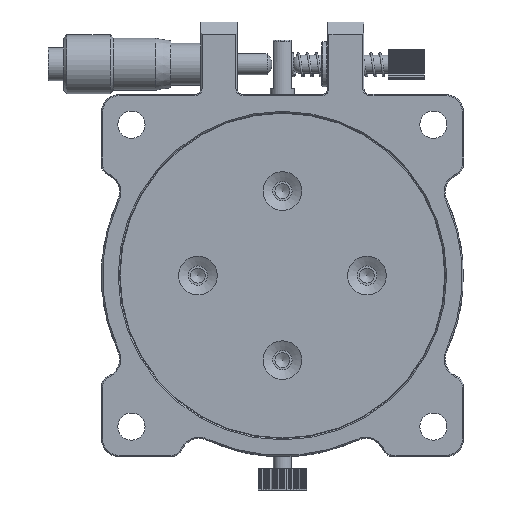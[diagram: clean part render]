
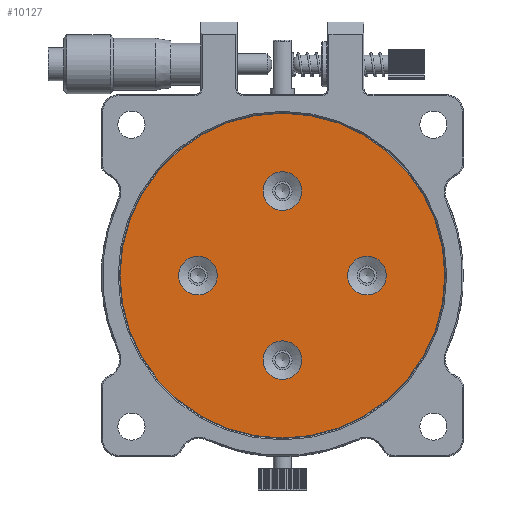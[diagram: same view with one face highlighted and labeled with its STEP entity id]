
A CAD part, front view. The second image highlights one B-rep face of the part: STEP entity #10127.
In plain terms, the highlighted planar face has unit normal (0, -1, 0).
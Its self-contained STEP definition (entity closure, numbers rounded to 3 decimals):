
#161=FACE_BOUND('',#1361,.T.);
#162=FACE_BOUND('',#1362,.T.);
#163=FACE_BOUND('',#1363,.T.);
#164=FACE_BOUND('',#1364,.T.);
#218=PLANE('',#10984);
#750=FACE_OUTER_BOUND('',#1360,.T.);
#1360=EDGE_LOOP('',(#7151));
#1361=EDGE_LOOP('',(#7152));
#1362=EDGE_LOOP('',(#7153));
#1363=EDGE_LOOP('',(#7154));
#1364=EDGE_LOOP('',(#7155));
#3968=CIRCLE('',#10962,3.2);
#3971=CIRCLE('',#10967,3.2);
#3974=CIRCLE('',#10972,3.2);
#3977=CIRCLE('',#10977,3.2);
#3980=CIRCLE('',#10982,26.9);
#4483=VERTEX_POINT('',#15364);
#4486=VERTEX_POINT('',#15374);
#4489=VERTEX_POINT('',#15384);
#4492=VERTEX_POINT('',#15394);
#4495=VERTEX_POINT('',#15404);
#5497=EDGE_CURVE('',#4483,#4483,#3968,.T.);
#5502=EDGE_CURVE('',#4486,#4486,#3971,.T.);
#5507=EDGE_CURVE('',#4489,#4489,#3974,.T.);
#5512=EDGE_CURVE('',#4492,#4492,#3977,.T.);
#5517=EDGE_CURVE('',#4495,#4495,#3980,.T.);
#7151=ORIENTED_EDGE('',*,*,#5517,.T.);
#7152=ORIENTED_EDGE('',*,*,#5497,.T.);
#7153=ORIENTED_EDGE('',*,*,#5502,.T.);
#7154=ORIENTED_EDGE('',*,*,#5507,.T.);
#7155=ORIENTED_EDGE('',*,*,#5512,.T.);
#10127=ADVANCED_FACE('',(#750,#161,#162,#163,#164),#218,.T.);
#10962=AXIS2_PLACEMENT_3D('',#15365,#12211,#12212);
#10967=AXIS2_PLACEMENT_3D('',#15375,#12223,#12224);
#10972=AXIS2_PLACEMENT_3D('',#15385,#12235,#12236);
#10977=AXIS2_PLACEMENT_3D('',#15395,#12247,#12248);
#10982=AXIS2_PLACEMENT_3D('',#15405,#12259,#12260);
#10984=AXIS2_PLACEMENT_3D('',#15409,#12264,#12265);
#12211=DIRECTION('center_axis',(0.,1.,0.));
#12212=DIRECTION('ref_axis',(1.,0.,0.));
#12223=DIRECTION('center_axis',(0.,1.,0.));
#12224=DIRECTION('ref_axis',(1.,0.,0.));
#12235=DIRECTION('center_axis',(0.,1.,0.));
#12236=DIRECTION('ref_axis',(1.,0.,0.));
#12247=DIRECTION('center_axis',(0.,1.,0.));
#12248=DIRECTION('ref_axis',(1.,0.,0.));
#12259=DIRECTION('center_axis',(0.,-1.,0.));
#12260=DIRECTION('ref_axis',(1.,0.,0.));
#12264=DIRECTION('center_axis',(0.,-1.,0.));
#12265=DIRECTION('ref_axis',(0.,0.,-1.));
#15364=CARTESIAN_POINT('',(-17.2,0.3,0.));
#15365=CARTESIAN_POINT('Origin',(-14.,0.3,0.));
#15374=CARTESIAN_POINT('',(10.8,0.3,0.));
#15375=CARTESIAN_POINT('Origin',(14.,0.3,0.));
#15384=CARTESIAN_POINT('',(-3.2,0.3,14.));
#15385=CARTESIAN_POINT('Origin',(0.,0.3,
14.));
#15394=CARTESIAN_POINT('',(-3.2,0.3,-14.));
#15395=CARTESIAN_POINT('Origin',(0.,0.3,
-14.));
#15404=CARTESIAN_POINT('',(-26.9,0.3,0.));
#15405=CARTESIAN_POINT('Origin',(0.,0.3,0.));
#15409=CARTESIAN_POINT('Origin',(0.,0.3,0.));
